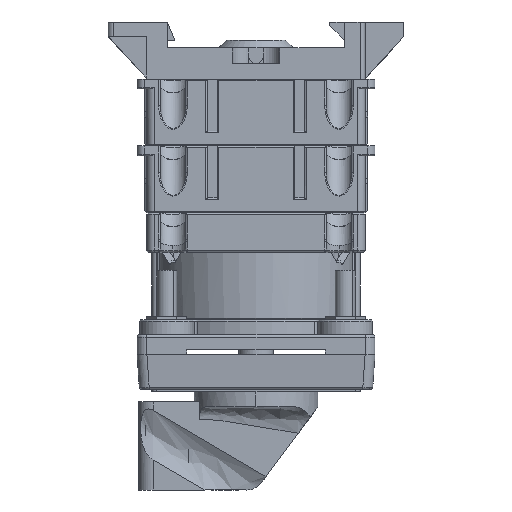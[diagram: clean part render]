
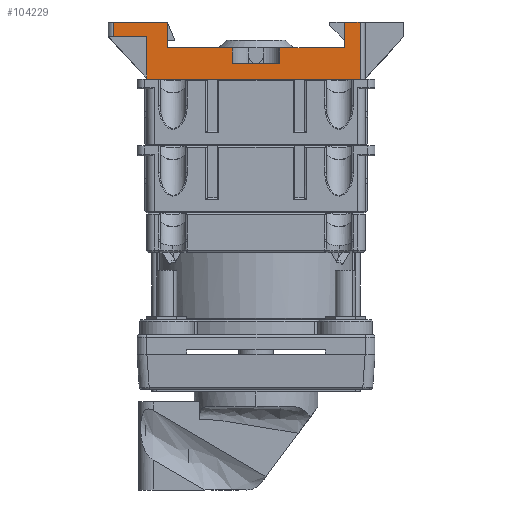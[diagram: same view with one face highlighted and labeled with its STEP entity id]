
A CAD part, left-side view. The second image highlights one B-rep face of the part: STEP entity #104229.
In plain terms, the highlighted planar face has unit normal (-1, 0, 0).
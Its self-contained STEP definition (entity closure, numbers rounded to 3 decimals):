
#654 = CARTESIAN_POINT ( 'NONE',  ( -15.639, 12.739, -149.282 ) ) ;
#1846 = ORIENTED_EDGE ( 'NONE', *, *, #119757, .F. ) ;
#2687 = VECTOR ( 'NONE', #149645, 1000. ) ;
#3183 = CARTESIAN_POINT ( 'NONE',  ( -15.639, -0.311, -152.482 ) ) ;
#3761 = ORIENTED_EDGE ( 'NONE', *, *, #127579, .F. ) ;
#4257 = ORIENTED_EDGE ( 'NONE', *, *, #9764, .F. ) ;
#4309 = DIRECTION ( 'NONE',  ( 0., -1., 0. ) ) ;
#6137 = VERTEX_POINT ( 'NONE', #152190 ) ;
#6829 = LINE ( 'NONE', #7263, #137126 ) ;
#7263 = CARTESIAN_POINT ( 'NONE',  ( -15.639, 16.889, -147.082 ) ) ;
#8449 = ORIENTED_EDGE ( 'NONE', *, *, #158252, .F. ) ;
#8868 = DIRECTION ( 'NONE',  ( 0., 1., 0. ) ) ;
#9125 = VECTOR ( 'NONE', #58742, 1000. ) ;
#9764 = EDGE_CURVE ( 'NONE', #106386, #33171, #134993, .T. ) ;
#12909 = LINE ( 'NONE', #133845, #9125 ) ;
#16281 = LINE ( 'NONE', #93636, #113023 ) ;
#17775 = CARTESIAN_POINT ( 'NONE',  ( -15.639, -26.111, -144.082 ) ) ;
#18352 = ORIENTED_EDGE ( 'NONE', *, *, #110474, .F. ) ;
#18474 = LINE ( 'NONE', #163449, #2687 ) ;
#19412 = ORIENTED_EDGE ( 'NONE', *, *, #131912, .F. ) ;
#21628 = EDGE_CURVE ( 'NONE', #53836, #48218, #150117, .T. ) ;
#24137 = EDGE_CURVE ( 'NONE', #150304, #127863, #46423, .T. ) ;
#24225 = DIRECTION ( 'NONE',  ( 0., 0., 1. ) ) ;
#24386 = CARTESIAN_POINT ( 'NONE',  ( -15.639, 12.739, -144.082 ) ) ;
#33171 = VERTEX_POINT ( 'NONE', #46660 ) ;
#36352 = CARTESIAN_POINT ( 'NONE',  ( -15.639, 16.889, -155.582 ) ) ;
#37498 = DIRECTION ( 'NONE',  ( 0., -1., 0. ) ) ;
#41546 = VERTEX_POINT ( 'NONE', #24386 ) ;
#44016 = ORIENTED_EDGE ( 'NONE', *, *, #21628, .T. ) ;
#44180 = VECTOR ( 'NONE', #146038, 1000. ) ;
#46423 = LINE ( 'NONE', #84654, #99927 ) ;
#46433 = ORIENTED_EDGE ( 'NONE', *, *, #122357, .T. ) ;
#46660 = CARTESIAN_POINT ( 'NONE',  ( -15.639, 16.889, -147.082 ) ) ;
#47034 = CARTESIAN_POINT ( 'NONE',  ( -15.639, 23.689, -144.082 ) ) ;
#48218 = VERTEX_POINT ( 'NONE', #146718 ) ;
#49041 = EDGE_LOOP ( 'NONE', ( #19412, #105892, #18352, #3761, #46433, #44016, #1846, #4257, #107645, #123601, #80558, #117142, #109298, #8449 ) ) ;
#50148 = FACE_OUTER_BOUND ( 'NONE', #49041, .T. ) ;
#51207 = CARTESIAN_POINT ( 'NONE',  ( -15.639, 23.689, -155.582 ) ) ;
#53836 = VERTEX_POINT ( 'NONE', #47034 ) ;
#57829 = VECTOR ( 'NONE', #24225, 1000. ) ;
#58420 = VECTOR ( 'NONE', #128284, 1000. ) ;
#58635 = CARTESIAN_POINT ( 'NONE',  ( -15.639, -9.911, -152.482 ) ) ;
#58742 = DIRECTION ( 'NONE',  ( 0., 1., 0. ) ) ;
#61067 = EDGE_CURVE ( 'NONE', #6137, #139153, #135426, .T. ) ;
#62179 = VECTOR ( 'NONE', #122330, 1000. ) ;
#62212 = DIRECTION ( 'NONE',  ( 0., -1., 0. ) ) ;
#63298 = CARTESIAN_POINT ( 'NONE',  ( -15.639, -0.311, -152.482 ) ) ;
#63810 = DIRECTION ( 'NONE',  ( 0., 0., -1. ) ) ;
#64070 = DIRECTION ( 'NONE',  ( 0., -1., 0. ) ) ;
#64874 = LINE ( 'NONE', #71381, #66740 ) ;
#65286 = LINE ( 'NONE', #654, #144562 ) ;
#66740 = VECTOR ( 'NONE', #159367, 1000. ) ;
#68796 = VECTOR ( 'NONE', #83025, 1000. ) ;
#71381 = CARTESIAN_POINT ( 'NONE',  ( -15.639, -9.911, -152.482 ) ) ;
#73115 = CARTESIAN_POINT ( 'NONE',  ( -15.639, -0.311, -152.482 ) ) ;
#76926 = VECTOR ( 'NONE', #63810, 1000. ) ;
#78053 = CARTESIAN_POINT ( 'NONE',  ( -15.639, -26.111, -155.582 ) ) ;
#78474 = CARTESIAN_POINT ( 'NONE',  ( -15.639, -22.961, -149.282 ) ) ;
#79460 = VECTOR ( 'NONE', #62212, 1000. ) ;
#80558 = ORIENTED_EDGE ( 'NONE', *, *, #135548, .T. ) ;
#83025 = DIRECTION ( 'NONE',  ( 0., 1., 0. ) ) ;
#84500 = VERTEX_POINT ( 'NONE', #152258 ) ;
#84654 = CARTESIAN_POINT ( 'NONE',  ( -15.639, -22.961, -144.082 ) ) ;
#87737 = CARTESIAN_POINT ( 'NONE',  ( -15.639, -0.311, -149.282 ) ) ;
#87913 = EDGE_CURVE ( 'NONE', #152993, #136374, #109615, .T. ) ;
#88948 = CARTESIAN_POINT ( 'NONE',  ( -15.639, -27.111, -155.582 ) ) ;
#93636 = CARTESIAN_POINT ( 'NONE',  ( -15.639, 12.739, -149.282 ) ) ;
#99927 = VECTOR ( 'NONE', #158309, 1000. ) ;
#101277 = VERTEX_POINT ( 'NONE', #160244 ) ;
#104229 = ADVANCED_FACE ( 'NONE', ( #50148 ), #127061, .F. ) ;
#105892 = ORIENTED_EDGE ( 'NONE', *, *, #87913, .T. ) ;
#106386 = VERTEX_POINT ( 'NONE', #36352 ) ;
#107645 = ORIENTED_EDGE ( 'NONE', *, *, #121620, .F. ) ;
#109298 = ORIENTED_EDGE ( 'NONE', *, *, #149518, .F. ) ;
#109615 = LINE ( 'NONE', #73115, #62179 ) ;
#110474 = EDGE_CURVE ( 'NONE', #84500, #136374, #65286, .T. ) ;
#113023 = VECTOR ( 'NONE', #4309, 1000. ) ;
#114410 = CARTESIAN_POINT ( 'NONE',  ( -15.639, -22.961, -144.082 ) ) ;
#115558 = DIRECTION ( 'NONE',  ( 1., 0., 0. ) ) ;
#117142 = ORIENTED_EDGE ( 'NONE', *, *, #24137, .F. ) ;
#119757 = EDGE_CURVE ( 'NONE', #33171, #48218, #6829, .T. ) ;
#121620 = EDGE_CURVE ( 'NONE', #6137, #106386, #12909, .T. ) ;
#122330 = DIRECTION ( 'NONE',  ( 0., 0., 1. ) ) ;
#122357 = EDGE_CURVE ( 'NONE', #41546, #53836, #18474, .T. ) ;
#123601 = ORIENTED_EDGE ( 'NONE', *, *, #61067, .T. ) ;
#126249 = CARTESIAN_POINT ( 'NONE',  ( -15.639, 16.889, -155.582 ) ) ;
#127061 = PLANE ( 'NONE',  #133615 ) ;
#127579 = EDGE_CURVE ( 'NONE', #41546, #84500, #158820, .T. ) ;
#127863 = VERTEX_POINT ( 'NONE', #114410 ) ;
#128284 = DIRECTION ( 'NONE',  ( 0., 0., 1. ) ) ;
#131912 = EDGE_CURVE ( 'NONE', #152993, #150449, #136887, .T. ) ;
#133615 = AXIS2_PLACEMENT_3D ( 'NONE', #88948, #115558, #64070 ) ;
#133845 = CARTESIAN_POINT ( 'NONE',  ( -15.639, -27.111, -155.582 ) ) ;
#134993 = LINE ( 'NONE', #126249, #57829 ) ;
#135426 = LINE ( 'NONE', #78053, #58420 ) ;
#135548 = EDGE_CURVE ( 'NONE', #139153, #127863, #140045, .T. ) ;
#136374 = VERTEX_POINT ( 'NONE', #87737 ) ;
#136887 = LINE ( 'NONE', #63298, #79460 ) ;
#137126 = VECTOR ( 'NONE', #8868, 1000. ) ;
#139153 = VERTEX_POINT ( 'NONE', #17775 ) ;
#140045 = LINE ( 'NONE', #158899, #68796 ) ;
#144562 = VECTOR ( 'NONE', #37498, 1000. ) ;
#146038 = DIRECTION ( 'NONE',  ( 0., 0., -1. ) ) ;
#146569 = CARTESIAN_POINT ( 'NONE',  ( -15.639, 12.739, -144.082 ) ) ;
#146718 = CARTESIAN_POINT ( 'NONE',  ( -15.639, 23.689, -147.082 ) ) ;
#149518 = EDGE_CURVE ( 'NONE', #101277, #150304, #16281, .T. ) ;
#149645 = DIRECTION ( 'NONE',  ( 0., 1., 0. ) ) ;
#150117 = LINE ( 'NONE', #51207, #76926 ) ;
#150304 = VERTEX_POINT ( 'NONE', #78474 ) ;
#150449 = VERTEX_POINT ( 'NONE', #58635 ) ;
#152190 = CARTESIAN_POINT ( 'NONE',  ( -15.639, -26.111, -155.582 ) ) ;
#152258 = CARTESIAN_POINT ( 'NONE',  ( -15.639, 12.739, -149.282 ) ) ;
#152993 = VERTEX_POINT ( 'NONE', #3183 ) ;
#158252 = EDGE_CURVE ( 'NONE', #150449, #101277, #64874, .T. ) ;
#158309 = DIRECTION ( 'NONE',  ( 0., 0., 1. ) ) ;
#158820 = LINE ( 'NONE', #146569, #44180 ) ;
#158899 = CARTESIAN_POINT ( 'NONE',  ( -15.639, -27.111, -144.082 ) ) ;
#159367 = DIRECTION ( 'NONE',  ( 0., 0., 1. ) ) ;
#160244 = CARTESIAN_POINT ( 'NONE',  ( -15.639, -9.911, -149.282 ) ) ;
#163449 = CARTESIAN_POINT ( 'NONE',  ( -15.639, -27.111, -144.082 ) ) ;
